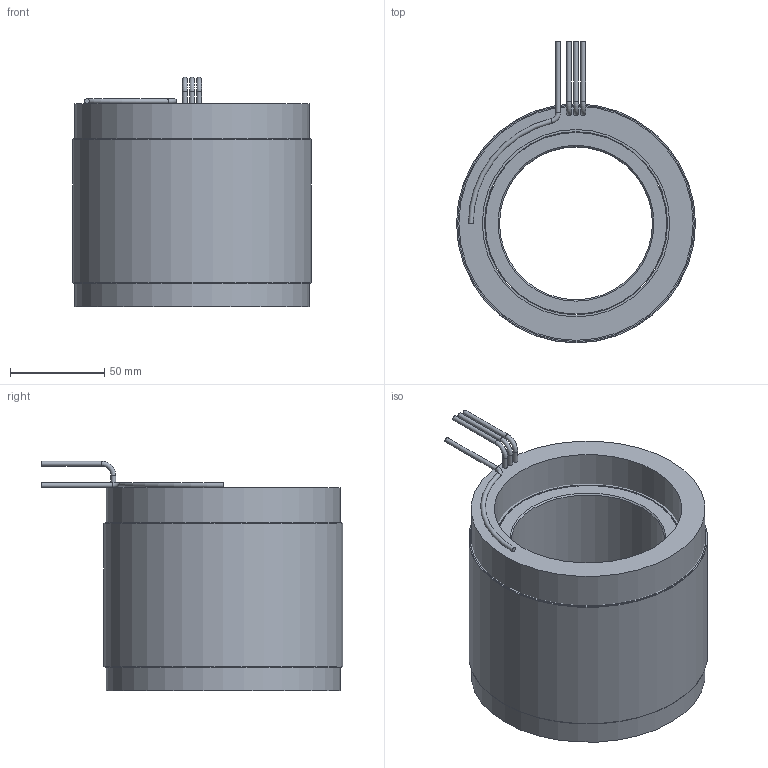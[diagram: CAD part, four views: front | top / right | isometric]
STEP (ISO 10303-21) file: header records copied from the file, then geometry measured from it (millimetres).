
FILE_DESCRIPTION (( 'STEP AP214' ), '1' );
FILE_NAME ('6100398-06.STEP', '2020-12-27T03:08:18', ( '' ), ( '' ), 'SwSTEP 2.0', 'SolidWorks 2016', '' );
FILE_SCHEMA (( 'AUTOMOTIVE_DESIGN' ));
Length unit declared in the file: inch
Products named in the file (10): 4450194-XX_4450194-06; 4500563-XX_4500563-06; 6100398-06; 4250386-XX_4250386-06; COMP4500563-XX(COIL)_COMP4500563-06(COIL); 4150184-XX_4150184-06; 4400106-00; 4600570-00
Assembly tree (10 placements, depth 4):
  6100398-06
    4250386-XX_4250386-06
      4150184-XX_4150184-06
    4500563-XX_4500563-06
      COMP4500563-XX(COIL)_COMP4500563-06(COIL)
      4450194-XX_4450194-06
        4450194-XX_4450194-06
        4400106-00
        4400106-00
        4600570-00  x2
Bounding box: 127 x 160.29 x 121.92 mm (x, y, z)
Volume: 1037580.7 mm3; surface area: 238824.1 mm2
Topology: 8 solids, 8 shells, 47 faces, 74 edges, 46 vertices
Faces by surface type: cylinder 21, plane 19, torus 5, cone 2
Full cylindrical faces by diameter (mm): 2.54 x7, 81.28 x1, 96.52 x1, 97.282 x5, 99.568 x1, 124.46 x1, 125.73 x2, 127 x3
Entity records: 1305 total; most frequent: DIRECTION 202, CARTESIAN_POINT 143, AXIS2_PLACEMENT_3D 101, ORIENTED_EDGE 84, EDGE_LOOP 84, FACE_OUTER_BOUND 67, ADVANCED_FACE 43, VERTEX_POINT 42
